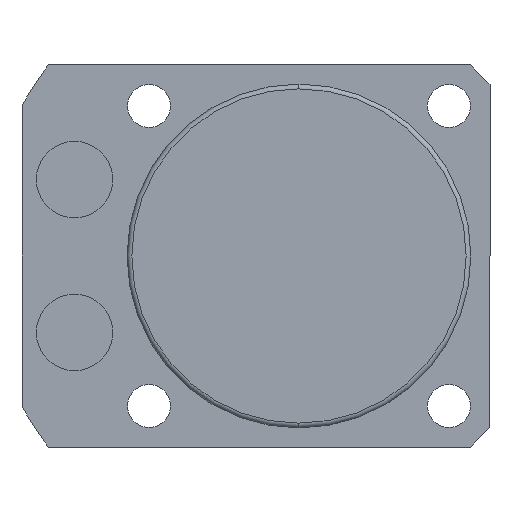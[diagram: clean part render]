
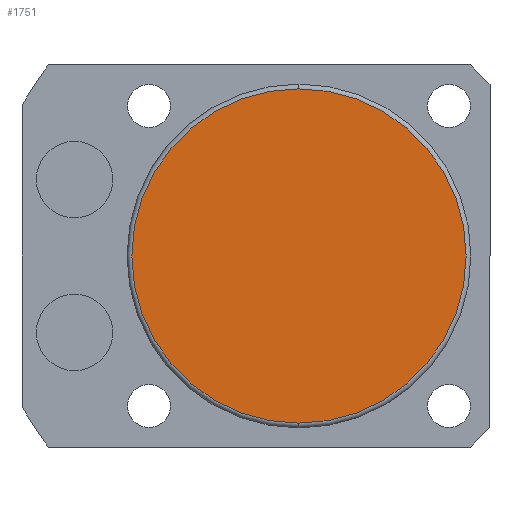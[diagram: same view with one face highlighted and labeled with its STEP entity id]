
A CAD part, front view. The second image highlights one B-rep face of the part: STEP entity #1751.
In plain terms, the highlighted planar face has unit normal (0, -1, 0).
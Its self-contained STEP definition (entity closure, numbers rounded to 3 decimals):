
#18 = CIRCLE ( 'NONE', #1108, 17.5 ) ;
#37 = CIRCLE ( 'NONE', #236, 17.5 ) ;
#50 = VERTEX_POINT ( 'NONE', #1112 ) ;
#163 = DIRECTION ( 'NONE',  ( 0., -1., 0. ) ) ;
#236 = AXIS2_PLACEMENT_3D ( 'NONE', #2559, #1285, #1294 ) ;
#366 = EDGE_LOOP ( 'NONE', ( #2236, #1182 ) ) ;
#495 = DIRECTION ( 'NONE',  ( 0., 0., -1. ) ) ;
#586 = CARTESIAN_POINT ( 'NONE',  ( 0., -110.5, 0. ) ) ;
#875 = EDGE_CURVE ( 'NONE', #2529, #50, #37, .T. ) ;
#990 = PLANE ( 'NONE',  #1365 ) ;
#1034 = EDGE_CURVE ( 'NONE', #50, #2529, #18, .T. ) ;
#1108 = AXIS2_PLACEMENT_3D ( 'NONE', #2173, #1340, #495 ) ;
#1112 = CARTESIAN_POINT ( 'NONE',  ( 0., -110.5, -17.5 ) ) ;
#1182 = ORIENTED_EDGE ( 'NONE', *, *, #875, .T. ) ;
#1285 = DIRECTION ( 'NONE',  ( 0., -1., 0. ) ) ;
#1294 = DIRECTION ( 'NONE',  ( 0., 0., -1. ) ) ;
#1340 = DIRECTION ( 'NONE',  ( 0., -1., 0. ) ) ;
#1365 = AXIS2_PLACEMENT_3D ( 'NONE', #586, #163, #1419 ) ;
#1419 = DIRECTION ( 'NONE',  ( 0., 0., -1. ) ) ;
#1435 = FACE_OUTER_BOUND ( 'NONE', #366, .T. ) ;
#1751 = ADVANCED_FACE ( 'NONE', ( #1435 ), #990, .T. ) ;
#2173 = CARTESIAN_POINT ( 'NONE',  ( 0., -110.5, 0. ) ) ;
#2236 = ORIENTED_EDGE ( 'NONE', *, *, #1034, .T. ) ;
#2320 = CARTESIAN_POINT ( 'NONE',  ( 0., -110.5, 17.5 ) ) ;
#2529 = VERTEX_POINT ( 'NONE', #2320 ) ;
#2559 = CARTESIAN_POINT ( 'NONE',  ( 0., -110.5, 0. ) ) ;
